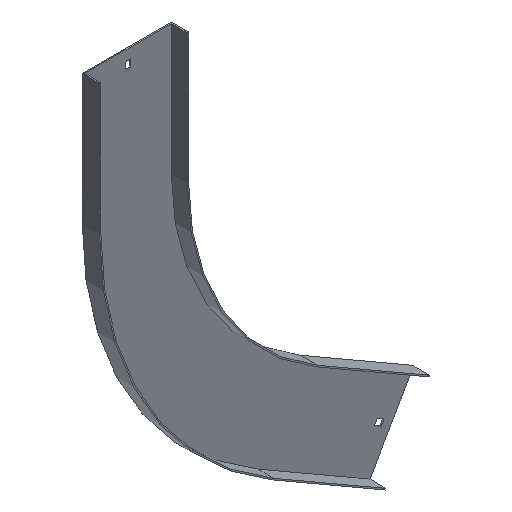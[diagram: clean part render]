
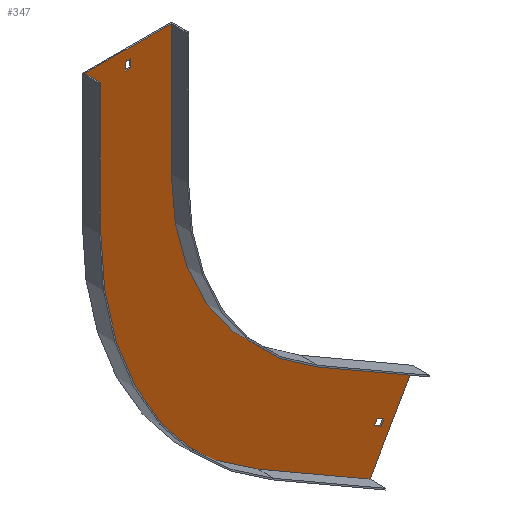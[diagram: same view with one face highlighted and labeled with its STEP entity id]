
A CAD part, isometric view. The second image highlights one B-rep face of the part: STEP entity #347.
In plain terms, the highlighted planar face has unit normal (0, -1, 0).
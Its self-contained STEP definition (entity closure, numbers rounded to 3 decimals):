
#9 = CARTESIAN_POINT ( 'NONE',  ( -64.908, -1.5, -370.423 ) ) ;
#11 = CARTESIAN_POINT ( 'NONE',  ( -300., -1.5, 0. ) ) ;
#14 = VECTOR ( 'NONE', #306, 1000. ) ;
#15 = LINE ( 'NONE', #552, #490 ) ;
#31 = VERTEX_POINT ( 'NONE', #349 ) ;
#33 = FACE_BOUND ( 'NONE', #732, .T. ) ;
#41 = VERTEX_POINT ( 'NONE', #227 ) ;
#54 = EDGE_CURVE ( 'NONE', #41, #474, #15, .T. ) ;
#58 = VECTOR ( 'NONE', #122, 1000. ) ;
#64 = EDGE_LOOP ( 'NONE', ( #750, #377, #196, #859, #603, #410, #608, #268 ) ) ;
#73 = DIRECTION ( 'NONE',  ( -0.866, 0., 0.5 ) ) ;
#74 = LINE ( 'NONE', #386, #14 ) ;
#78 = CARTESIAN_POINT ( 'NONE',  ( -400., -1.5, 150. ) ) ;
#99 = EDGE_CURVE ( 'NONE', #469, #726, #115, .T. ) ;
#107 = CARTESIAN_POINT ( 'NONE',  ( -300., -1.5, 150. ) ) ;
#110 = CARTESIAN_POINT ( 'NONE',  ( 111.717, -1.5, -64.5 ) ) ;
#115 = LINE ( 'NONE', #564, #263 ) ;
#121 = LINE ( 'NONE', #201, #764 ) ;
#122 = DIRECTION ( 'NONE',  ( 0.5, 0., 0.866 ) ) ;
#130 = AXIS2_PLACEMENT_3D ( 'NONE', #288, #667, #605 ) ;
#140 = AXIS2_PLACEMENT_3D ( 'NONE', #304, #829, #374 ) ;
#159 = CARTESIAN_POINT ( 'NONE',  ( -346.75, -1.5, 138. ) ) ;
#162 = VECTOR ( 'NONE', #376, 1000. ) ;
#169 = DIRECTION ( 'NONE',  ( -0.5, 0., -0.866 ) ) ;
#177 = CARTESIAN_POINT ( 'NONE',  ( 0., -1.5, 138. ) ) ;
#184 = EDGE_CURVE ( 'NONE', #781, #715, #842, .T. ) ;
#196 = ORIENTED_EDGE ( 'NONE', *, *, #211, .F. ) ;
#200 = VECTOR ( 'NONE', #73, 1000. ) ;
#201 = CARTESIAN_POINT ( 'NONE',  ( -19.346, -1.5, -333.509 ) ) ;
#205 = VERTEX_POINT ( 'NONE', #159 ) ;
#211 = EDGE_CURVE ( 'NONE', #857, #782, #540, .T. ) ;
#227 = CARTESIAN_POINT ( 'NONE',  ( -353.25, -1.5, 129. ) ) ;
#234 = VERTEX_POINT ( 'NONE', #11 ) ;
#235 = CARTESIAN_POINT ( 'NONE',  ( -150., -1.5, -259.808 ) ) ;
#239 = ORIENTED_EDGE ( 'NONE', *, *, #731, .F. ) ;
#242 = DIRECTION ( 'NONE',  ( 0., -1., 0. ) ) ;
#248 = VECTOR ( 'NONE', #169, 1000. ) ;
#256 = EDGE_CURVE ( 'NONE', #491, #31, #365, .T. ) ;
#257 = CARTESIAN_POINT ( 'NONE',  ( 119.512, -1.5, -69. ) ) ;
#261 = VECTOR ( 'NONE', #352, 1000. ) ;
#263 = VECTOR ( 'NONE', #765, 1000. ) ;
#265 = EDGE_CURVE ( 'NONE', #847, #857, #741, .T. ) ;
#268 = ORIENTED_EDGE ( 'NONE', *, *, #325, .F. ) ;
#275 = CARTESIAN_POINT ( 'NONE',  ( -53.863, -1.5, -369.294 ) ) ;
#288 = CARTESIAN_POINT ( 'NONE',  ( 0., -1.5, 0. ) ) ;
#293 = CARTESIAN_POINT ( 'NONE',  ( -176.625, -1.5, -305.923 ) ) ;
#304 = CARTESIAN_POINT ( 'NONE',  ( 0., -1.5, 0. ) ) ;
#306 = DIRECTION ( 'NONE',  ( 0., 0., -1. ) ) ;
#309 = LINE ( 'NONE', #442, #658 ) ;
#310 = EDGE_CURVE ( 'NONE', #672, #41, #551, .T. ) ;
#321 = VERTEX_POINT ( 'NONE', #275 ) ;
#325 = EDGE_CURVE ( 'NONE', #726, #234, #816, .T. ) ;
#346 = CARTESIAN_POINT ( 'NONE',  ( -150., -1.5, -259.808 ) ) ;
#347 = ADVANCED_FACE ( 'NONE', ( #33, #698, #844 ), #569, .T. ) ;
#348 = ORIENTED_EDGE ( 'NONE', *, *, #801, .T. ) ;
#349 = CARTESIAN_POINT ( 'NONE',  ( -57.113, -1.5, -374.923 ) ) ;
#352 = DIRECTION ( 'NONE',  ( -1., 0., 0. ) ) ;
#361 = EDGE_CURVE ( 'NONE', #321, #711, #309, .T. ) ;
#362 = CARTESIAN_POINT ( 'NONE',  ( -400., -1.5, 0. ) ) ;
#365 = LINE ( 'NONE', #293, #517 ) ;
#369 = CARTESIAN_POINT ( 'NONE',  ( -346.75, -1.5, 129. ) ) ;
#372 = CARTESIAN_POINT ( 'NONE',  ( -353.25, -1.5, 138. ) ) ;
#374 = DIRECTION ( 'NONE',  ( 0., 0., -1. ) ) ;
#376 = DIRECTION ( 'NONE',  ( 0., 0., 1. ) ) ;
#377 = ORIENTED_EDGE ( 'NONE', *, *, #602, .F. ) ;
#383 = LINE ( 'NONE', #257, #58 ) ;
#386 = CARTESIAN_POINT ( 'NONE',  ( -346.75, -1.5, 0. ) ) ;
#410 = ORIENTED_EDGE ( 'NONE', *, *, #184, .F. ) ;
#416 = CARTESIAN_POINT ( 'NONE',  ( -20.096, -1.5, -334.808 ) ) ;
#418 = EDGE_CURVE ( 'NONE', #474, #205, #760, .T. ) ;
#428 = DIRECTION ( 'NONE',  ( -0.866, 0., 0.5 ) ) ;
#435 = DIRECTION ( 'NONE',  ( 1., 0., 0. ) ) ;
#442 = CARTESIAN_POINT ( 'NONE',  ( -173.375, -1.5, -300.294 ) ) ;
#448 = AXIS2_PLACEMENT_3D ( 'NONE', #749, #242, #617 ) ;
#454 = EDGE_LOOP ( 'NONE', ( #670, #348, #771, #818 ) ) ;
#468 = CARTESIAN_POINT ( 'NONE',  ( -300., -1.5, 150. ) ) ;
#469 = VERTEX_POINT ( 'NONE', #78 ) ;
#473 = DIRECTION ( 'NONE',  ( 0., 0., -1. ) ) ;
#474 = VERTEX_POINT ( 'NONE', #372 ) ;
#486 = ORIENTED_EDGE ( 'NONE', *, *, #256, .F. ) ;
#490 = VECTOR ( 'NONE', #616, 1000. ) ;
#491 = VERTEX_POINT ( 'NONE', #9 ) ;
#495 = VECTOR ( 'NONE', #435, 1000. ) ;
#497 = CARTESIAN_POINT ( 'NONE',  ( -200., -1.5, -346.41 ) ) ;
#512 = DIRECTION ( 'NONE',  ( 0.866, 0., -0.5 ) ) ;
#517 = VECTOR ( 'NONE', #537, 1000. ) ;
#520 = VECTOR ( 'NONE', #473, 1000. ) ;
#530 = ORIENTED_EDGE ( 'NONE', *, *, #361, .F. ) ;
#537 = DIRECTION ( 'NONE',  ( 0.866, 0., -0.5 ) ) ;
#540 = CIRCLE ( 'NONE', #130, 400. ) ;
#551 = LINE ( 'NONE', #796, #261 ) ;
#552 = CARTESIAN_POINT ( 'NONE',  ( -353.25, -1.5, 0. ) ) ;
#561 = LINE ( 'NONE', #110, #248 ) ;
#564 = CARTESIAN_POINT ( 'NONE',  ( -401.5, -1.5, 150. ) ) ;
#569 = PLANE ( 'NONE',  #140 ) ;
#573 = EDGE_CURVE ( 'NONE', #715, #847, #121, .T. ) ;
#575 = VECTOR ( 'NONE', #512, 1000. ) ;
#592 = CARTESIAN_POINT ( 'NONE',  ( -400., -1.5, 0. ) ) ;
#602 = EDGE_CURVE ( 'NONE', #782, #469, #740, .T. ) ;
#603 = ORIENTED_EDGE ( 'NONE', *, *, #573, .F. ) ;
#605 = DIRECTION ( 'NONE',  ( 0., 0., -1. ) ) ;
#608 = ORIENTED_EDGE ( 'NONE', *, *, #640, .F. ) ;
#615 = CARTESIAN_POINT ( 'NONE',  ( -70.096, -1.5, -421.41 ) ) ;
#616 = DIRECTION ( 'NONE',  ( 0., 0., 1. ) ) ;
#617 = DIRECTION ( 'NONE',  ( 0., 0., -1. ) ) ;
#640 = EDGE_CURVE ( 'NONE', #234, #781, #840, .T. ) ;
#658 = VECTOR ( 'NONE', #428, 1000. ) ;
#667 = DIRECTION ( 'NONE',  ( 0., 1., 0. ) ) ;
#670 = ORIENTED_EDGE ( 'NONE', *, *, #418, .T. ) ;
#672 = VERTEX_POINT ( 'NONE', #369 ) ;
#698 = FACE_OUTER_BOUND ( 'NONE', #64, .T. ) ;
#699 = DIRECTION ( 'NONE',  ( -0.5, 0., -0.866 ) ) ;
#711 = VERTEX_POINT ( 'NONE', #827 ) ;
#715 = VERTEX_POINT ( 'NONE', #416 ) ;
#726 = VERTEX_POINT ( 'NONE', #107 ) ;
#731 = EDGE_CURVE ( 'NONE', #31, #321, #383, .T. ) ;
#732 = EDGE_LOOP ( 'NONE', ( #530, #239, #486, #860 ) ) ;
#740 = LINE ( 'NONE', #362, #162 ) ;
#741 = LINE ( 'NONE', #615, #200 ) ;
#749 = CARTESIAN_POINT ( 'NONE',  ( 0., -1.5, 0. ) ) ;
#750 = ORIENTED_EDGE ( 'NONE', *, *, #99, .F. ) ;
#760 = LINE ( 'NONE', #177, #495 ) ;
#764 = VECTOR ( 'NONE', #699, 1000. ) ;
#765 = DIRECTION ( 'NONE',  ( 1., 0., 0. ) ) ;
#771 = ORIENTED_EDGE ( 'NONE', *, *, #310, .T. ) ;
#781 = VERTEX_POINT ( 'NONE', #346 ) ;
#782 = VERTEX_POINT ( 'NONE', #592 ) ;
#796 = CARTESIAN_POINT ( 'NONE',  ( 0., -1.5, 129. ) ) ;
#801 = EDGE_CURVE ( 'NONE', #205, #672, #74, .T. ) ;
#816 = LINE ( 'NONE', #468, #520 ) ;
#818 = ORIENTED_EDGE ( 'NONE', *, *, #54, .T. ) ;
#820 = EDGE_CURVE ( 'NONE', #711, #491, #561, .T. ) ;
#827 = CARTESIAN_POINT ( 'NONE',  ( -61.658, -1.5, -364.794 ) ) ;
#829 = DIRECTION ( 'NONE',  ( 0., -1., 0. ) ) ;
#831 = CARTESIAN_POINT ( 'NONE',  ( -70.096, -1.5, -421.41 ) ) ;
#840 = CIRCLE ( 'NONE', #448, 300. ) ;
#842 = LINE ( 'NONE', #235, #575 ) ;
#844 = FACE_BOUND ( 'NONE', #454, .T. ) ;
#847 = VERTEX_POINT ( 'NONE', #831 ) ;
#857 = VERTEX_POINT ( 'NONE', #497 ) ;
#859 = ORIENTED_EDGE ( 'NONE', *, *, #265, .F. ) ;
#860 = ORIENTED_EDGE ( 'NONE', *, *, #820, .F. ) ;
